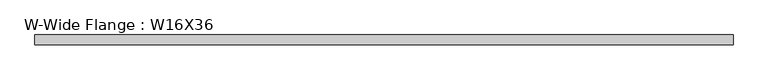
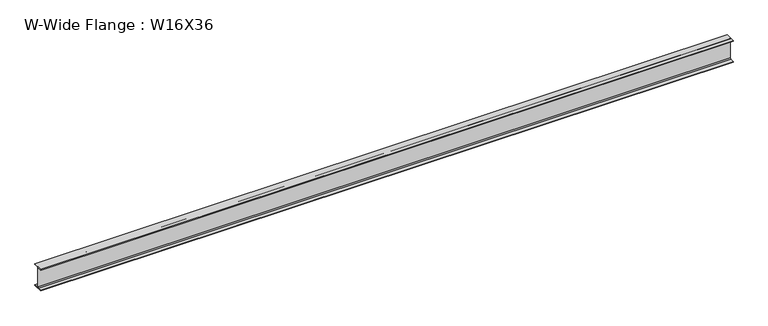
"""IFC4 building model written with IfcOpenShell, lengths in millimetres: beam geometry, W-Wide Flange : W16X36."""

from ifc_helpers import new_model, si_unit, point, frame, frame_2d, origin, place, context, project, spatial, polyline, circle_curve, trimmed, segment, composite_curve, outline, extrude, source, transform, mapped, element, save


def w_wide_flange_w16x36_c4b9c51e(model_context):
    return source(origin(), model_context, "Body", "SweptSolid", [
        extrude(outline(composite_curve([segment(polyline([(88.773, -191.008), (88.773, -201.93), (-88.773, -201.93), (-88.773, -191.008), (-21.3995, -191.008)]), True, "CONTINUOUS"), segment(trimmed(circle_curve(frame_2d((-21.3995, -173.355)), 17.653), [point((-21.3995, -191.008))], [point((-3.7465, -173.355))], True, "CARTESIAN"), True, "CONTINUOUS"), segment(polyline([(-3.7465, -173.355), (-3.7465, 173.355)]), True, "CONTINUOUS"), segment(trimmed(circle_curve(frame_2d((-21.3995, 173.355)), 17.653), [point((-3.7465, 173.355))], [point((-21.3995, 191.008))], True, "CARTESIAN"), True, "CONTINUOUS"), segment(polyline([(-21.3995, 191.008), (-88.773, 191.008), (-88.773, 201.93), (88.773, 201.93), (88.773, 191.008), (21.3995, 191.008)]), True, "CONTINUOUS"), segment(trimmed(circle_curve(frame_2d((21.3995, 173.355)), 17.653), [point((21.3995, 191.008))], [point((3.7465, 173.355))], True, "CARTESIAN"), True, "CONTINUOUS"), segment(polyline([(3.7465, 173.355), (3.7465, -173.355)]), True, "CONTINUOUS"), segment(trimmed(circle_curve(frame_2d((21.3995, -173.355)), 17.653), [point((3.7465, -173.355))], [point((21.3995, -191.008))], True, "CARTESIAN"), True, "CONTINUOUS"), segment(polyline([(21.3995, -191.008), (88.773, -191.008)]), True, "CONTINUOUS")], self_intersect=False)), frame((-10839.1598313, 0.0, 0.0), z_axis=(1.0, 0.0, 0.0), x_axis=(0.0, 1.0, 0.0)), (0.0, 0.0, 1.0), 12299.5328313),
    ])


if __name__ == "__main__":
    model = new_model("IFC4")
    model_context = context("Model", 3, world=origin())
    ifc_project = project(units=[si_unit("LENGTHUNIT", "METRE", prefix="MILLI")], contexts=[model_context])
    site = spatial("IfcSite", under=ifc_project)
    building = spatial("IfcBuilding", under=site)
    placement = place(None, origin())
    w_wide_flange_w16x36_shape = w_wide_flange_w16x36_c4b9c51e(model_context)
    element("IfcBeam", 1, ObjectType="W-Wide Flange : W16X36", at=placement, inside=building, context=model_context, shape_type="MappedRepresentation", body=[
        mapped(w_wide_flange_w16x36_shape, transform((0.0, 0.0, 0.0), x_axis=(1.0, 0.0, 0.0), y_axis=(0.0, 1.0, 0.0), z_axis=(0.0, 0.0, 1.0))),
    ])
    save(model, "model.ifc")
